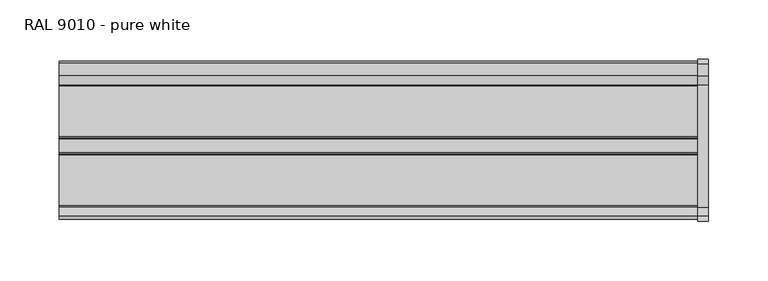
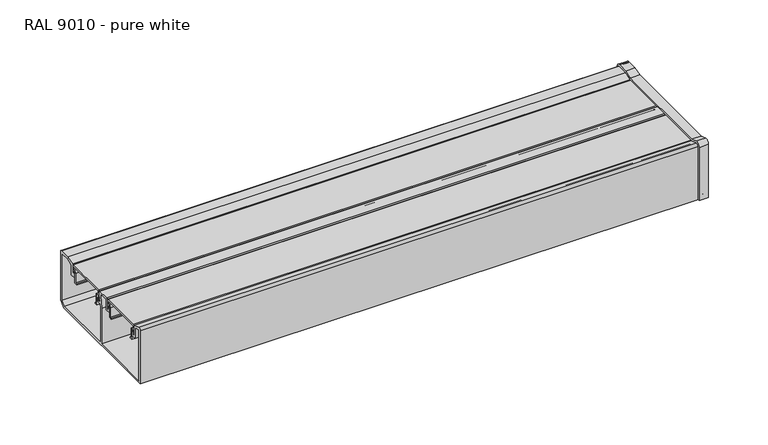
"""IFC4 building model written with IfcOpenShell, lengths in millimetres: proxy geometry, Electrical_Installations_Hager_GBD-Flat-Lid-End-Cap : RAL 9010 - pure white."""

from ifc_helpers import new_model, si_unit, point, frame, frame_2d, origin, place, context, project, spatial, polyline, circle_curve, trimmed, segment, composite_curve, outline, extrude, source, transform, mapped, element, save
from ifc_brep_helpers import plane_surface, cylinder_surface, revolved_surface, advanced_brep


def ral_9010_pure_white_18c5e684(model_context):
    return source(origin(), model_context, "Body", "SolidModel", [
        extrude(outline(composite_curve([segment(trimmed(circle_curve(frame_2d((-49.8914345, 39.6343363)), 5.8656637), [point((-55.5085432, 41.3237445))], [point((-49.8914345, 45.5))], False, "CARTESIAN"), True, "CONTINUOUS"), segment(polyline([(-49.8914345, 45.5), (43.4631366, 45.5)]), True, "CONTINUOUS"), segment(trimmed(circle_curve(frame_2d((43.4631366, 39.5252885)), 5.9747115), [point((43.4631366, 45.5))], [point((49.1782923, 41.2671763))], False, "CARTESIAN"), True, "CONTINUOUS"), segment(trimmed(circle_curve(frame_2d((-128.3197107, -12.8313689)), 185.5591379), [point((49.1782923, 41.2671763))], [point((56.7151603, 1.1074319))], False, "CARTESIAN"), True, "CONTINUOUS"), segment(trimmed(circle_curve(frame_2d((55.6880142, 1.0300563)), 1.0300563), [point((56.7151603, 1.1074319))], [point((55.6880142, 0.0))], False, "CARTESIAN"), True, "CONTINUOUS"), segment(polyline([(55.6880142, 0.0), (-62.1861095, 0.0)]), True, "CONTINUOUS"), segment(trimmed(circle_curve(frame_2d((-62.1861095, 0.9434111)), 0.9434111), [point((-62.1861095, 0.0))], [point((-63.1263922, 1.0201774))], False, "CARTESIAN"), True, "CONTINUOUS"), segment(trimmed(circle_curve(frame_2d((131.2639828, -14.8501783)), 195.0371403), [point((-63.1263922, 1.0201774))], [point((-55.5085432, 41.3237445))], False, "CARTESIAN"), True, "CONTINUOUS")], self_intersect=False)), frame((542.3392846, 0.0, 0.0), z_axis=(1.0, 0.0, 0.0), x_axis=(0.0, 1.0, 0.0)), (0.0, 0.0, 1.0), 5.5),
        advanced_brep(
        [(549.0, 68.3826134, 5.0), (549.0, 68.3826134, 54.4464817), (549.0, 64.629095, 58.2), (549.0, 54.3382065, 58.2), (549.0, 46.6439977, 55.7), (549.0, -56.7371553, 55.7), (549.0, -63.8534471, 58.0122234), (549.0, -68.7173866, 54.4783645), (549.0, -68.7173866, 0.0), (549.0, -67.2173866, 0.0), (549.0, -67.2173866, 54.4740947), (549.0, -64.3129118, 56.5843192), (549.0, -56.974732, 54.2), (549.0, 46.8815743, 54.2), (549.0, 54.5757832, 56.7), (549.0, 64.676444, 56.7), (549.0, 66.8826134, 54.4938306), (549.0, 66.8826134, 5.2469728), (549.0, 61.6356406, 0.0), (549.0, 63.3826134, 0.0), (540.0, 68.3826134, 5.0), (540.0, 63.3826134, 0.0), (540.0, -68.7173866, 0.0), (540.0, -68.7173866, 54.4783645), (540.0, -63.8534471, 58.0122234), (540.0, -56.7371553, 55.7), (540.0, 46.6439977, 55.7), (540.0, 54.3382065, 58.2), (540.0, 64.629095, 58.2), (540.0, 68.3826134, 54.4464817), (542.3392846, 68.3826134, 5.0), (542.3392846, 68.3826134, 54.4464817), (542.3392846, 64.629095, 58.2), (542.3392846, 54.3382065, 58.2), (542.3392846, 46.6439977, 55.7), (542.3392846, -56.7371553, 55.7), (542.3392846, -63.8534471, 58.0122234), (542.3392846, -68.7173866, 54.4783645), (542.3392846, 61.6356406, 0.0), (542.3392846, -67.2173866, 0.0), (542.3392846, -67.2173866, 54.4740947), (542.3392846, -64.3129118, 56.5843192), (542.3392846, -56.974732, 54.2), (542.3392846, 46.8815743, 54.2), (542.3392846, 54.5757832, 56.7), (542.3392846, 64.676444, 56.7), (542.3392846, 66.8826134, 54.4938306), (542.3392846, 66.8826134, 5.2469728)],
        [
            (0, 1),
            (1, 2, circle_curve(frame((549.0, 64.629095, 54.4464817), z_axis=(1.0, 0.0, 0.0), x_axis=(0.0, -1.0, 0.0)), 3.7535183)),
            (2, 3),
            (3, 4),
            (4, 5),
            (5, 6),
            (6, 7, circle_curve(frame((549.0, -65.0016675, 54.4783645), z_axis=(1.0, 0.0, 0.0), x_axis=(0.0, -1.0, 0.0)), 3.7157191)),
            (7, 8),
            (8, 9),
            (9, 10),
            (10, 11, circle_curve(frame((549.0, -64.9985653, 54.4740947), z_axis=(-1.0, 0.0, 0.0), x_axis=(0.0, -1.0, 0.0)), 2.2188213)),
            (11, 12),
            (12, 13),
            (13, 14),
            (14, 15),
            (15, 16, circle_curve(frame((549.0, 64.676444, 54.4938306), z_axis=(-1.0, 0.0, 0.0), x_axis=(0.0, -1.0, 0.0)), 2.2061694)),
            (16, 17),
            (17, 18),
            (18, 19),
            (19, 0),
            (20, 21),
            (21, 22),
            (22, 23),
            (23, 24, circle_curve(frame((540.0, -65.0016675, 54.4783645), z_axis=(-1.0, 0.0, 0.0), x_axis=(0.0, -1.0, 0.0)), 3.7157191)),
            (24, 25),
            (25, 26),
            (26, 27),
            (27, 28),
            (28, 29, circle_curve(frame((540.0, 64.629095, 54.4464817), z_axis=(-1.0, 0.0, 0.0), x_axis=(0.0, -1.0, 0.0)), 3.7535183)),
            (29, 20),
            (0, 30),
            (30, 20),
            (29, 31),
            (31, 1),
            (28, 32),
            (32, 2),
            (27, 33),
            (33, 3),
            (26, 34),
            (34, 4),
            (25, 35),
            (35, 5),
            (24, 36),
            (36, 6),
            (23, 37),
            (37, 7),
            (22, 8),
            (21, 19),
            (18, 38),
            (38, 39),
            (39, 9),
            (39, 40),
            (40, 10),
            (40, 41, circle_curve(frame((542.3392846, -64.9985653, 54.4740947), z_axis=(-1.0, 0.0, 0.0), x_axis=(0.0, -1.0, 0.0)), 2.2188213)),
            (41, 11),
            (41, 42),
            (42, 12),
            (42, 43),
            (43, 13),
            (43, 44),
            (44, 14),
            (44, 45),
            (45, 15),
            (45, 46, circle_curve(frame((542.3392846, 64.676444, 54.4938306), z_axis=(-1.0, 0.0, 0.0), x_axis=(0.0, -1.0, 0.0)), 2.2061694)),
            (46, 16),
            (46, 47),
            (47, 17),
            (47, 38),
        ],
        [
            plane_surface(frame((549.0, 0.0, 0.0), z_axis=(1.0, 0.0, 0.0), x_axis=(0.0, 0.0, 1.0))),
            plane_surface(frame((540.0, 0.0, 0.0), z_axis=(-1.0, 0.0, 0.0), x_axis=(0.0, 0.0, 1.0))),
            plane_surface(frame((549.0, 68.3826134, 5.0), z_axis=(0.0, 1.0, 0.0), x_axis=(-1.0, 0.0, 0.0))),
            cylinder_surface(frame((549.0, 64.629095, 54.4464817), z_axis=(1.0, 0.0, 0.0), x_axis=(0.0, -1.0, 0.0)), 3.7535183),
            plane_surface(frame((549.0, 64.629095, 58.2), z_axis=(0.0, 0.0, 1.0), x_axis=(-1.0, 0.0, 0.0))),
            plane_surface(frame((549.0, 54.3382065, 58.2), z_axis=(0.0, -0.30901699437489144, 0.9510565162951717), x_axis=(-1.0, 0.0, 0.0))),
            plane_surface(frame((549.0, 46.6439977, 55.7), z_axis=(0.0, 0.0, 1.0), x_axis=(-1.0, 0.0, 0.0))),
            plane_surface(frame((549.0, -56.7371553, 55.7), z_axis=(0.0, 0.30901699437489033, 0.9510565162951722), x_axis=(-1.0, 0.0, 0.0))),
            cylinder_surface(frame((549.0, -65.0016675, 54.4783645), z_axis=(1.0, 0.0, 0.0), x_axis=(0.0, -1.0, 0.0)), 3.7157191),
            plane_surface(frame((549.0, -68.7173866, 54.4783645), z_axis=(0.0, -1.0, 0.0), x_axis=(-1.0, 0.0, 0.0))),
            plane_surface(frame((549.0, -68.7173866, 0.0), z_axis=(0.0, 0.0, -1.0), x_axis=(-1.0, 0.0, 0.0))),
            plane_surface(frame((549.0, -67.2173866, 0.0), z_axis=(0.0, 1.0, 0.0), x_axis=(-1.0, 0.0, 0.0))),
            revolved_surface(polyline([(542.3392846, -67.2173866, 54.4740947), (549.0, -67.2173866, 54.4740947)]), (549.0, -64.9985653, 54.4740947), (-1.0, 0.0, 0.0)),
            plane_surface(frame((549.0, -64.3129118, 56.5843192), z_axis=(0.0, -0.3090169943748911, -0.951056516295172), x_axis=(-1.0, 0.0, 0.0))),
            plane_surface(frame((549.0, -56.974732, 54.2), z_axis=(0.0, 0.0, -1.0), x_axis=(-1.0, 0.0, 0.0))),
            plane_surface(frame((549.0, 46.8815743, 54.2), z_axis=(0.0, 0.30901699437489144, -0.9510565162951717), x_axis=(-1.0, 0.0, 0.0))),
            plane_surface(frame((549.0, 54.5757832, 56.7), z_axis=(0.0, 0.0, -1.0), x_axis=(-1.0, 0.0, 0.0))),
            revolved_surface(polyline([(542.3392846, 62.4702746, 54.4938306), (549.0, 62.4702746, 54.4938306)]), (549.0, 64.676444, 54.4938306), (-1.0, 0.0, 0.0)),
            plane_surface(frame((549.0, 66.8826134, 54.4938306), z_axis=(0.0, -1.0, 0.0), x_axis=(-1.0, 0.0, 0.0))),
            plane_surface(frame((549.0, 66.8826134, 5.2469728), z_axis=(0.0, -0.7071067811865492, 0.7071067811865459), x_axis=(-1.0, 0.0, 0.0))),
            plane_surface(frame((549.0, 63.3826134, 0.0), z_axis=(0.0, 0.7071067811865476, -0.7071067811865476), x_axis=(-1.0, 0.0, 0.0))),
            plane_surface(frame((542.3392846, -68.7173866, 54.4783645), z_axis=(1.0, 0.0, 0.0), x_axis=(0.0, 0.0, -1.0))),
        ],
        [
            (0, [[1, 2, 3, 4, 5, 6, 7, 8, 9, 10, 11, 12, 13, 14, 15, 16, 17, 18, 19, 20]]),
            (1, [[21, 22, 23, 24, 25, 26, 27, 28, 29, 30]]),
            (2, [[-1, 31, 32, -30, 33, 34]]),
            (3, [[-2, -34, -33, -29, 35, 36]]),
            (4, [[-3, -36, -35, -28, 37, 38]]),
            (5, [[-4, -38, -37, -27, 39, 40]]),
            (6, [[-5, -40, -39, -26, 41, 42]]),
            (7, [[-6, -42, -41, -25, 43, 44]]),
            (8, [[-7, -44, -43, -24, 45, 46]]),
            (9, [[47, -8, -46, -45, -23]]),
            (10, [[-9, -47, -22, 48, -19, 49, 50, 51]]),
            (11, [[-10, -51, 52, 53]]),
            (12, [[-11, -53, 54, 55]]),
            (13, [[-12, -55, 56, 57]]),
            (14, [[-13, -57, 58, 59]]),
            (15, [[-14, -59, 60, 61]]),
            (16, [[-15, -61, 62, 63]]),
            (17, [[-16, -63, 64, 65]]),
            (18, [[-17, -65, 66, 67]]),
            (19, [[-18, -67, 68, -49]]),
            (20, [[-20, -48, -21, -32, -31]]),
            (21, [[-50, -68, -66, -64, -62, -60, -58, -56, -54, -52]]),
        ],
    ),
        extrude(outline(composite_curve([segment(polyline([(-64.6976563, 54.0894343), (-64.6976563, 2.0), (-2.2476563, 2.0), (-2.2476563, 38.3324137), (-0.2476563, 49.6749773), (-0.2476563, 52.0), (-9.8476563, 52.0), (-9.8476563, 41.5012147), (-14.5382813, 41.5012147), (-14.5382813, 45.748101), (-13.5382813, 45.748101), (-13.5382813, 42.9887147), (-11.6476563, 42.9887147), (-11.6476563, 53.0031102)]), True, "CONTINUOUS"), segment(trimmed(circle_curve(frame_2d((-10.6507665, 53.0031102)), 0.9968898), [point((-11.6476563, 53.0031102))], [point((-10.6507665, 54.0))], False, "CARTESIAN"), True, "CONTINUOUS"), segment(polyline([(-10.6507665, 54.0), (0.7441474, 54.0)]), True, "CONTINUOUS"), segment(trimmed(circle_curve(frame_2d((0.7441474, 52.9918037)), 1.0081963), [point((0.7441474, 54.0))], [point((1.7523437, 52.9918037))], False, "CARTESIAN"), True, "CONTINUOUS"), segment(polyline([(1.7523437, 52.9918037), (1.7523437, 49.5), (0.6591165, 43.3), (3.2523437, 43.3), (3.2523437, 45.7537431), (4.2523437, 45.7537431), (4.2523437, 41.5), (0.3417279, 41.5), (-0.2476563, 38.1574364), (-0.2476563, 2.0), (60.5496526, 2.0), (64.5023437, 5.9526912), (64.5023437, 54.2), (54.8614746, 54.2), (48.5523437, 52.1500391), (48.5523437, 41.5), (44.2523437, 41.5), (44.2523437, 45.7556921), (45.2523437, 45.7556921), (45.2523437, 42.9887147), (46.7523437, 42.9887147), (46.7523437, 53.9835468), (54.4971904, 56.5), (64.8989144, 56.5)]), True, "CONTINUOUS"), segment(trimmed(circle_curve(frame_2d((64.8989144, 54.5965707)), 1.9034293), [point((64.8989144, 56.5))], [point((66.8023437, 54.5965707))], False, "CARTESIAN"), True, "CONTINUOUS"), segment(polyline([(66.8023437, 54.5965707), (66.8023437, 5.0), (61.8023437, 0.0), (-66.9976563, 0.0), (-66.9976563, 54.4045249)]), True, "CONTINUOUS"), segment(trimmed(circle_curve(frame_2d((-64.9278927, 54.4045249)), 2.0697636), [point((-66.9976563, 54.4045249))], [point((-64.2989994, 56.3764312))], False, "CARTESIAN"), True, "CONTINUOUS"), segment(polyline([(-64.2989994, 56.3764312), (-56.8429688, 53.998505), (-56.8429688, 42.9887147), (-54.6789063, 42.9887147), (-54.6789063, 45.7565885), (-53.6789063, 45.7565885), (-53.6789063, 41.5012147), (-58.4476563, 41.5012147), (-58.4476563, 52.0961433), (-64.6976563, 54.0894343)]), True, "CONTINUOUS")], self_intersect=False)), frame((0.0, 0.0, 0.0), z_axis=(1.0, 0.0, 0.0), x_axis=(0.0, 1.0, 0.0)), (0.0, 0.0, 1.0), 540.0),
        extrude(outline(composite_curve([segment(polyline([(-13.1613464, 52.5816445), (-55.0613464, 52.5816445), (-55.0613464, 49.2816445), (-53.7229555, 49.2816445)]), True, "CONTINUOUS"), segment(trimmed(circle_curve(frame_2d((-53.7229555, 47.1700354)), 2.1116091), [point((-53.7229555, 49.2816445))], [point((-51.6113464, 47.1700354))], False, "CARTESIAN"), True, "CONTINUOUS"), segment(polyline([(-51.6113464, 47.1700354), (-51.6113464, 37.6816445), (-49.7113464, 37.6816445), (-49.7113464, 36.8816445), (-52.6113464, 36.8816445), (-52.6113464, 47.3262929)]), True, "CONTINUOUS"), segment(trimmed(circle_curve(frame_2d((-53.566698, 47.3262929)), 0.9553516), [point((-52.6113464, 47.3262929))], [point((-53.566698, 48.2816445))], True, "CARTESIAN"), True, "CONTINUOUS"), segment(polyline([(-53.566698, 48.2816445), (-55.3644879, 48.2816445), (-55.3644879, 43.8012242), (-56.3660339, 43.8012242), (-56.3660339, 53.0900381)]), True, "CONTINUOUS"), segment(trimmed(circle_curve(frame_2d((-55.456072, 53.0900381)), 0.9099619), [point((-56.3660339, 53.0900381))], [point((-55.456072, 54.0))], False, "CARTESIAN"), True, "CONTINUOUS"), segment(polyline([(-55.456072, 54.0), (-12.9820268, 54.0)]), True, "CONTINUOUS"), segment(trimmed(circle_curve(frame_2d((-12.9820268, 52.9918196)), 1.0081804), [point((-12.9820268, 54.0))], [point((-11.9738464, 52.9918196))], False, "CARTESIAN"), True, "CONTINUOUS"), segment(polyline([(-11.9738464, 52.9918196), (-11.9738464, 43.8012242), (-12.858205, 43.8012242), (-12.858205, 48.2816445), (-14.6025892, 48.2816445)]), True, "CONTINUOUS"), segment(trimmed(circle_curve(frame_2d((-14.6025892, 47.2728873)), 1.0087572), [point((-14.6025892, 48.2816445))], [point((-15.6113464, 47.2728873))], True, "CARTESIAN"), True, "CONTINUOUS"), segment(polyline([(-15.6113464, 47.2728873), (-15.6113464, 36.8816445), (-18.5113464, 36.8816445), (-18.5113464, 37.6816445), (-16.6113464, 37.6816445), (-16.6113464, 47.3197896)]), True, "CONTINUOUS"), segment(trimmed(circle_curve(frame_2d((-14.6494915, 47.3197896)), 1.9618549), [point((-16.6113464, 47.3197896))], [point((-14.6494915, 49.2816445))], False, "CARTESIAN"), True, "CONTINUOUS"), segment(polyline([(-14.6494915, 49.2816445), (-13.1613464, 49.2816445), (-13.1613464, 52.5816445)]), True, "CONTINUOUS")], self_intersect=False)), frame((0.0, 0.0, 0.0), z_axis=(1.0, 0.0, 0.0), x_axis=(0.0, 1.0, 0.0)), (0.0, 0.0, 1.0), 540.0),
        extrude(outline(composite_curve([segment(polyline([(45.1923672, 52.5816445), (3.2923672, 52.5816445), (3.2923672, 49.2816445), (4.6307581, 49.2816445)]), True, "CONTINUOUS"), segment(trimmed(circle_curve(frame_2d((4.6307581, 47.1700354)), 2.1116091), [point((4.6307581, 49.2816445))], [point((6.7423672, 47.1700354))], False, "CARTESIAN"), True, "CONTINUOUS"), segment(polyline([(6.7423672, 47.1700354), (6.7423672, 37.6816445), (8.6423672, 37.6816445), (8.6423672, 36.8816445), (5.7423672, 36.8816445), (5.7423672, 47.3262929)]), True, "CONTINUOUS"), segment(trimmed(circle_curve(frame_2d((4.7870156, 47.3262929)), 0.9553516), [point((5.7423672, 47.3262929))], [point((4.7870156, 48.2816445))], True, "CARTESIAN"), True, "CONTINUOUS"), segment(polyline([(4.7870156, 48.2816445), (2.9892258, 48.2816445), (2.9892258, 43.8231023), (1.9876797, 43.8231023), (1.9876797, 53.0900381)]), True, "CONTINUOUS"), segment(trimmed(circle_curve(frame_2d((2.8976417, 53.0900381)), 0.9099619), [point((1.9876797, 53.0900381))], [point((2.8976417, 54.0))], False, "CARTESIAN"), True, "CONTINUOUS"), segment(polyline([(2.8976417, 54.0), (45.3716869, 54.0)]), True, "CONTINUOUS"), segment(trimmed(circle_curve(frame_2d((45.3716869, 52.9918196)), 1.0081804), [point((45.3716869, 54.0))], [point((46.3798672, 52.9918196))], False, "CARTESIAN"), True, "CONTINUOUS"), segment(polyline([(46.3798672, 52.9918196), (46.3798672, 43.9733035), (45.4955087, 43.9733035), (45.4955087, 48.2816445), (43.7511244, 48.2816445)]), True, "CONTINUOUS"), segment(trimmed(circle_curve(frame_2d((43.7511244, 47.2728873)), 1.0087572), [point((43.7511244, 48.2816445))], [point((42.7423672, 47.2728873))], True, "CARTESIAN"), True, "CONTINUOUS"), segment(polyline([(42.7423672, 47.2728873), (42.7423672, 36.8816445), (39.8423672, 36.8816445), (39.8423672, 37.6816445), (41.7423672, 37.6816445), (41.7423672, 47.3197896)]), True, "CONTINUOUS"), segment(trimmed(circle_curve(frame_2d((43.7042221, 47.3197896)), 1.9618549), [point((41.7423672, 47.3197896))], [point((43.7042221, 49.2816445))], False, "CARTESIAN"), True, "CONTINUOUS"), segment(polyline([(43.7042221, 49.2816445), (45.1923672, 49.2816445), (45.1923672, 52.5816445)]), True, "CONTINUOUS")], self_intersect=False)), frame((0.0, 0.0, 0.0), z_axis=(1.0, 0.0, 0.0), x_axis=(0.0, 1.0, 0.0)), (0.0, 0.0, 1.0), 540.0),
    ])


if __name__ == "__main__":
    model = new_model("IFC4")
    model_context = context("Model", 3, world=origin())
    ifc_project = project(units=[si_unit("LENGTHUNIT", "METRE", prefix="MILLI")], contexts=[model_context])
    site = spatial("IfcSite", under=ifc_project)
    building = spatial("IfcBuilding", under=site)
    placement = place(None, origin())
    ral_9010_pure_white_shape = ral_9010_pure_white_18c5e684(model_context)
    element("IfcBuildingElementProxy", 1, Name="Electrical_Installations_Hager_GBD-Flat-Lid-End-Cap : RAL 9010 - pure white", ObjectType="Electrical_Installations_Hager_GBD-Flat-Lid-End-Cap : RAL 9010 - pure white", at=placement, inside=building, context=model_context, shape_type="MappedRepresentation", body=[
        mapped(ral_9010_pure_white_shape, transform((0.0, 0.0, 0.0), x_axis=(1.0, 0.0, 0.0), y_axis=(0.0, 1.0, 0.0), z_axis=(0.0, 0.0, 1.0))),
    ])
    save(model, "model.ifc")
